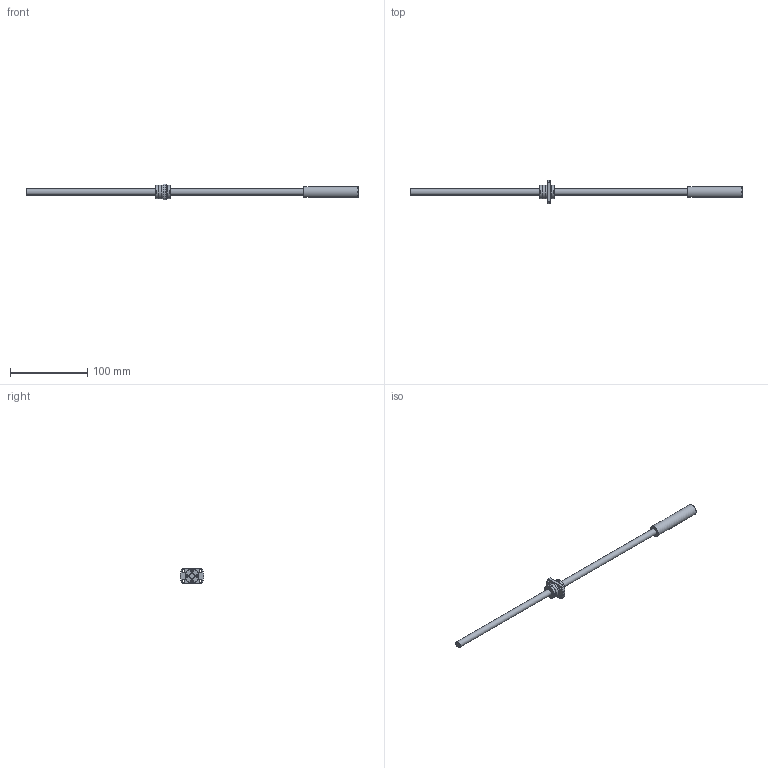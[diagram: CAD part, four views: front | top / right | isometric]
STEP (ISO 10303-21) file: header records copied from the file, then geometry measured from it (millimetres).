
FILE_DESCRIPTION(/* description */ ('STEP AP214'),/* implementation_level */ '2;1');
FILE_NAME(/* name */ 'SRT0808-356R430C7A0X(167.5None)',/* time_stamp */ '2026-08-04T20:04:10+02:00',/* author */ ('License CC BY-ND 4.0'),/* organization */ ('CADENAS'),/* preprocessor_version */ 'ST-DEVELOPER v20',/* originating_system */ 'PARTsolutions',/* authorisation */ ' ');
FILE_SCHEMA (('AUTOMOTIVE_DESIGN {1 0 10303 214 3 1 1}'));
Length unit declared in the file: millimetre
Products named in the file (3): SRT0808-356R430C7A0X(167.5None); SRT0808-356R430ACt7None46Shaft; SRT0808Nut
Assembly tree (2 placements, depth 2):
  SRT0808-356R430C7A0X(167.5None)
    SRT0808-356R430ACt7None46Shaft
    SRT0808Nut
Bounding box: 430 x 30.91 x 20 mm (x, y, z)
Volume: 34142.8 mm3; surface area: 15585.2 mm2
Topology: 2 solids, 2 shells, 138 faces, 332 edges, 220 vertices
Faces by surface type: plane 100, cylinder 30, cone 8
Full cylindrical faces by diameter (mm): 3 x8, 3.4 x4, 8 x2, 14.2 x1, 17.5 x2, 17.7 x1, 18 x2
Entity records: 3971 total; most frequent: CARTESIAN_POINT 689, DIRECTION 662, ORIENTED_EDGE 612, EDGE_CURVE 306, AXIS2_PLACEMENT_3D 223, VERTEX_POINT 218, LINE 216, VECTOR 216
